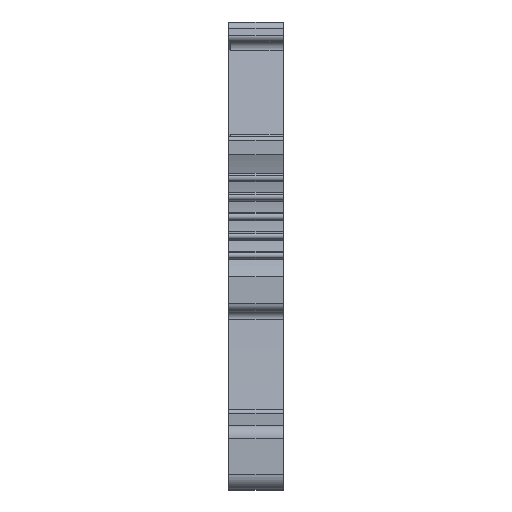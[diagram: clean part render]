
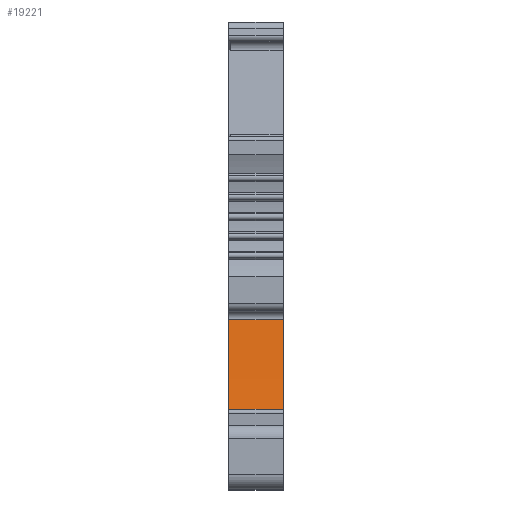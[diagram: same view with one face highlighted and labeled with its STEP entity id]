
A CAD part, front view. The second image highlights one B-rep face of the part: STEP entity #19221.
In plain terms, the highlighted cylindrical face has radius 160.719 mm (diameter 321.437 mm), a partial arc.
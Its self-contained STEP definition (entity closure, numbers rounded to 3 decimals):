
#19221 = ADVANCED_FACE('',(#19222),#19237,.F.);
#19222 = FACE_BOUND('',#19223,.F.);
#19223 = EDGE_LOOP('',(#19224,#19247,#19262,#19278));
#19224 = ORIENTED_EDGE('',*,*,#19225,.T.);
#19225 = EDGE_CURVE('',#19226,#19228,#19230,.T.);
#19226 = VERTEX_POINT('',#19227);
#19227 = CARTESIAN_POINT('',(1.644,-15.037,
    32.014));
#19228 = VERTEX_POINT('',#19229);
#19229 = CARTESIAN_POINT('',(1.644,-15.904,
    26.26));
#19230 = SURFACE_CURVE('',#19231,(#19236),.PCURVE_S1.);
#19231 = CIRCLE('',#19232,160.719);
#19232 = AXIS2_PLACEMENT_3D('',#19233,#19234,#19235);
#19233 = CARTESIAN_POINT('',(1.644,-174.37,
    53.077));
#19234 = DIRECTION('',(-1.,0.,0.));
#19235 = DIRECTION('',(0.,1.,0.));
#19236 = PCURVE('',#19237,#19242);
#19237 = CYLINDRICAL_SURFACE('',#19238,160.719);
#19238 = AXIS2_PLACEMENT_3D('',#19239,#19240,#19241);
#19239 = CARTESIAN_POINT('',(3.144,-174.37,
    53.077));
#19240 = DIRECTION('',(1.,0.,0.));
#19241 = DIRECTION('',(0.,-1.,0.));
#19242 = DEFINITIONAL_REPRESENTATION('',(#19243),#19246);
#19243 = B_SPLINE_CURVE_WITH_KNOTS('',1,(#19244,#19245),.UNSPECIFIED.,
  .F.,.F.,(2,2),(0.131,0.168),
  .PIECEWISE_BEZIER_KNOTS.);
#19244 = CARTESIAN_POINT('',(3.01,-1.5));
#19245 = CARTESIAN_POINT('',(2.974,-1.5));
#19246 = ( GEOMETRIC_REPRESENTATION_CONTEXT(2) 
PARAMETRIC_REPRESENTATION_CONTEXT() REPRESENTATION_CONTEXT('2D SPACE',''
  ) );
#19247 = ORIENTED_EDGE('',*,*,#19248,.F.);
#19248 = EDGE_CURVE('',#19249,#19228,#19251,.T.);
#19249 = VERTEX_POINT('',#19250);
#19250 = CARTESIAN_POINT('',(-1.856,-15.904,
    26.26));
#19251 = SURFACE_CURVE('',#19252,(#19256),.PCURVE_S1.);
#19252 = LINE('',#19253,#19254);
#19253 = CARTESIAN_POINT('',(-1.156,-15.904,
    26.26));
#19254 = VECTOR('',#19255,1.);
#19255 = DIRECTION('',(1.,0.,0.));
#19256 = PCURVE('',#19237,#19257);
#19257 = DEFINITIONAL_REPRESENTATION('',(#19258),#19261);
#19258 = B_SPLINE_CURVE_WITH_KNOTS('',1,(#19259,#19260),.UNSPECIFIED.,
  .F.,.F.,(2,2),(-0.7,2.8),.PIECEWISE_BEZIER_KNOTS.);
#19259 = CARTESIAN_POINT('',(2.974,-5.));
#19260 = CARTESIAN_POINT('',(2.974,-1.5));
#19261 = ( GEOMETRIC_REPRESENTATION_CONTEXT(2) 
PARAMETRIC_REPRESENTATION_CONTEXT() REPRESENTATION_CONTEXT('2D SPACE',''
  ) );
#19262 = ORIENTED_EDGE('',*,*,#19263,.F.);
#19263 = EDGE_CURVE('',#19264,#19249,#19266,.T.);
#19264 = VERTEX_POINT('',#19265);
#19265 = CARTESIAN_POINT('',(-1.856,-15.037,
    32.014));
#19266 = SURFACE_CURVE('',#19267,(#19272),.PCURVE_S1.);
#19267 = CIRCLE('',#19268,160.719);
#19268 = AXIS2_PLACEMENT_3D('',#19269,#19270,#19271);
#19269 = CARTESIAN_POINT('',(-1.856,-174.37,
    53.077));
#19270 = DIRECTION('',(-1.,0.,0.));
#19271 = DIRECTION('',(0.,1.,0.));
#19272 = PCURVE('',#19237,#19273);
#19273 = DEFINITIONAL_REPRESENTATION('',(#19274),#19277);
#19274 = B_SPLINE_CURVE_WITH_KNOTS('',1,(#19275,#19276),.UNSPECIFIED.,
  .F.,.F.,(2,2),(0.131,0.168),
  .PIECEWISE_BEZIER_KNOTS.);
#19275 = CARTESIAN_POINT('',(3.01,-5.));
#19276 = CARTESIAN_POINT('',(2.974,-5.));
#19277 = ( GEOMETRIC_REPRESENTATION_CONTEXT(2) 
PARAMETRIC_REPRESENTATION_CONTEXT() REPRESENTATION_CONTEXT('2D SPACE',''
  ) );
#19278 = ORIENTED_EDGE('',*,*,#19279,.F.);
#19279 = EDGE_CURVE('',#19226,#19264,#19280,.T.);
#19280 = SURFACE_CURVE('',#19281,(#19285),.PCURVE_S1.);
#19281 = LINE('',#19282,#19283);
#19282 = CARTESIAN_POINT('',(3.144,-15.037,
    32.014));
#19283 = VECTOR('',#19284,1.);
#19284 = DIRECTION('',(-1.,0.,0.));
#19285 = PCURVE('',#19237,#19286);
#19286 = DEFINITIONAL_REPRESENTATION('',(#19287),#19290);
#19287 = B_SPLINE_CURVE_WITH_KNOTS('',1,(#19288,#19289),.UNSPECIFIED.,
  .F.,.F.,(2,2),(1.5,5.),
  .PIECEWISE_BEZIER_KNOTS.);
#19288 = CARTESIAN_POINT('',(3.01,-1.5));
#19289 = CARTESIAN_POINT('',(3.01,-5.));
#19290 = ( GEOMETRIC_REPRESENTATION_CONTEXT(2) 
PARAMETRIC_REPRESENTATION_CONTEXT() REPRESENTATION_CONTEXT('2D SPACE',''
  ) );
